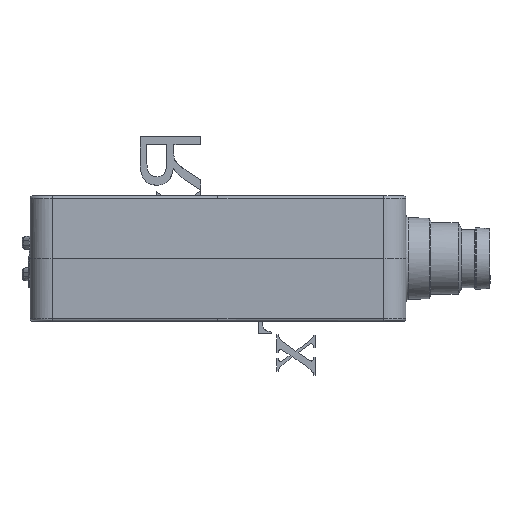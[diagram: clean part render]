
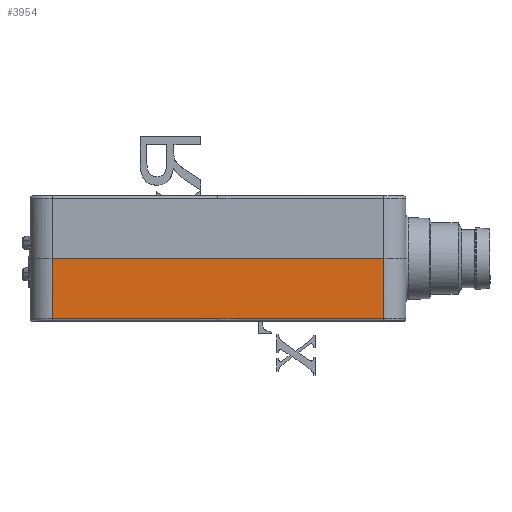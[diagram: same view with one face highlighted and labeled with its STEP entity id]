
A CAD part, left-side view. The second image highlights one B-rep face of the part: STEP entity #3954.
In plain terms, the highlighted free-form (B-spline) face has degree [1, 1] with [2, 2] control points.
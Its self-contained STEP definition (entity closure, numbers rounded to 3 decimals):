
#3954=ADVANCED_FACE('',(#4588),#4284,.T.);
#4284=B_SPLINE_SURFACE_WITH_KNOTS('',1,1,((#16469,#16470),(#16471,#16472)),
 .UNSPECIFIED.,.F.,.F.,.F.,(2,2),(2,2),(0.,1.),(0.,1.),.UNSPECIFIED.);
#4588=FACE_OUTER_BOUND('',#5107,.T.);
#5107=EDGE_LOOP('',(#6692,#6693,#6694,#6695,#6696));
#6692=ORIENTED_EDGE('',*,*,#8933,.F.);
#6693=ORIENTED_EDGE('',*,*,#8934,.F.);
#6694=ORIENTED_EDGE('',*,*,#8831,.T.);
#6695=ORIENTED_EDGE('',*,*,#8935,.F.);
#6696=ORIENTED_EDGE('',*,*,#8936,.F.);
#7892=VERTEX_POINT('',#15715);
#7906=VERTEX_POINT('',#15908);
#7989=VERTEX_POINT('',#16460);
#7990=VERTEX_POINT('',#16461);
#7991=VERTEX_POINT('',#16466);
#8831=EDGE_CURVE('',#7906,#7892,#9724,.T.);
#8933=EDGE_CURVE('',#7989,#7990,#9776,.T.);
#8934=EDGE_CURVE('',#7906,#7989,#9777,.T.);
#8935=EDGE_CURVE('',#7991,#7892,#9778,.T.);
#8936=EDGE_CURVE('',#7990,#7991,#9779,.T.);
#9724=B_SPLINE_CURVE_WITH_KNOTS('',1,(#15906,#15907),.UNSPECIFIED.,.F.,
 .F.,(2,2),(0.,1.),.UNSPECIFIED.);
#9776=B_SPLINE_CURVE_WITH_KNOTS('',1,(#16458,#16459),.UNSPECIFIED.,.F.,
 .F.,(2,2),(0.,1.),.UNSPECIFIED.);
#9777=B_SPLINE_CURVE_WITH_KNOTS('',1,(#16462,#16463),.UNSPECIFIED.,.F.,
 .F.,(2,2),(0.,1.),.UNSPECIFIED.);
#9778=B_SPLINE_CURVE_WITH_KNOTS('',1,(#16464,#16465),.UNSPECIFIED.,.F.,
 .F.,(2,2),(0.,1.),.UNSPECIFIED.);
#9779=B_SPLINE_CURVE_WITH_KNOTS('',1,(#16467,#16468),.UNSPECIFIED.,.F.,
 .F.,(2,2),(0.,1.),.UNSPECIFIED.);
#15715=CARTESIAN_POINT('',(-31.794,38.477,-0.29));
#15906=CARTESIAN_POINT('',(-31.677,38.477,-6.995));
#15907=CARTESIAN_POINT('',(-31.794,38.477,-0.29));
#15908=CARTESIAN_POINT('',(-31.677,38.477,-6.995));
#16458=CARTESIAN_POINT('',(-31.677,56.977,-6.995));
#16459=CARTESIAN_POINT('',(-31.677,75.477,-6.995));
#16460=CARTESIAN_POINT('',(-31.677,56.977,-6.995));
#16461=CARTESIAN_POINT('',(-31.677,75.477,-6.995));
#16462=CARTESIAN_POINT('',(-31.677,38.477,-6.995));
#16463=CARTESIAN_POINT('',(-31.677,56.977,-6.995));
#16464=CARTESIAN_POINT('',(-31.794,75.477,-0.29));
#16465=CARTESIAN_POINT('',(-31.794,38.477,-0.29));
#16466=CARTESIAN_POINT('',(-31.794,75.477,-0.29));
#16467=CARTESIAN_POINT('',(-31.677,75.477,-6.995));
#16468=CARTESIAN_POINT('',(-31.794,75.477,-0.29));
#16469=CARTESIAN_POINT('',(-31.666,35.977,-7.64));
#16470=CARTESIAN_POINT('',(-31.666,79.177,-7.64));
#16471=CARTESIAN_POINT('',(-31.794,35.977,-0.29));
#16472=CARTESIAN_POINT('',(-31.794,79.177,-0.29));
